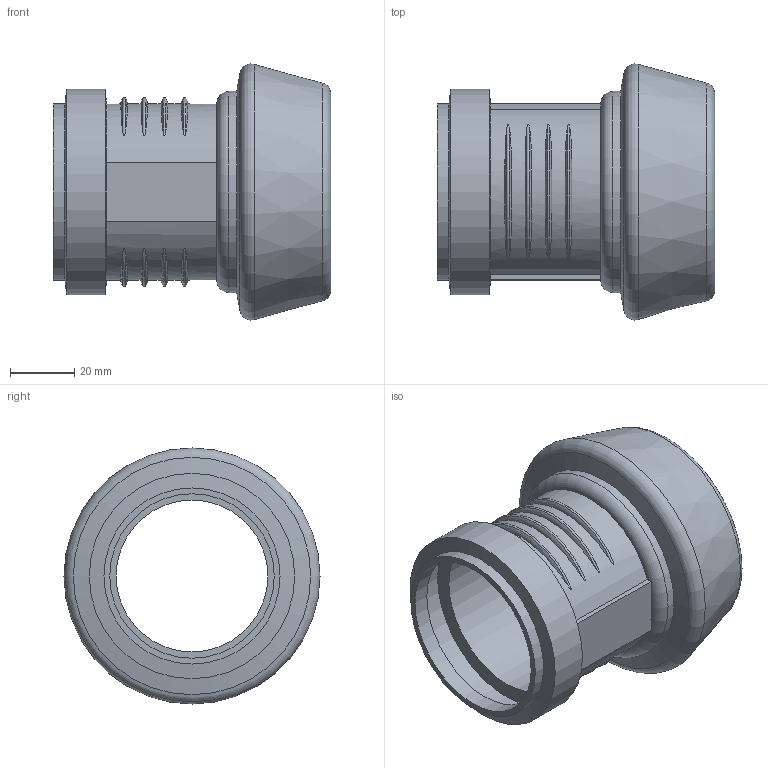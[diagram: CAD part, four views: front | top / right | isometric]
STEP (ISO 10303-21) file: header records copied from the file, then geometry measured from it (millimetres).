
FILE_DESCRIPTION(/* description */ (''),/* implementation_level */ '2;1');
FILE_NAME(/* name */ 'Z:\Geberit\Export\NewStep\390296.stp',/* time_stamp */ '2014-04-02T08:11:00+02:00',/* author */ ('Judith'),/* organization */ (''),/* preprocessor_version */ 'ST-DEVELOPER v15.2',/* originating_system */ 'Autodesk Inventor 2014',/* authorisation */ '');
FILE_SCHEMA (('AUTOMOTIVE_DESIGN { 1 0 10303 214 3 1 1 }'));
Length unit declared in the file: millimetre
Products named in the file (3): 861468; 861401; 390296
Bounding box: 86.1 x 79.4 x 79.4 mm (x, y, z)
Volume: 48810.2 mm3; surface area: 42658.4 mm2
Topology: 2 solids, 2 shells, 61 faces, 142 edges, 95 vertices
Faces by surface type: torus 29, plane 12, cylinder 11, cone 9
Full cylindrical faces by diameter (mm): 47.1 x1, 51 x2, 54.6 x1, 57.45 x2, 60.1 x1, 62.4 x1, 63.7 x1
Entity records: 2373 total; most frequent: CARTESIAN_POINT 1014, DIRECTION 242, ORIENTED_EDGE 236, EDGE_CURVE 118, AXIS2_PLACEMENT_3D 114, EDGE_LOOP 98, VERTEX_POINT 94, STYLED_ITEM 63
